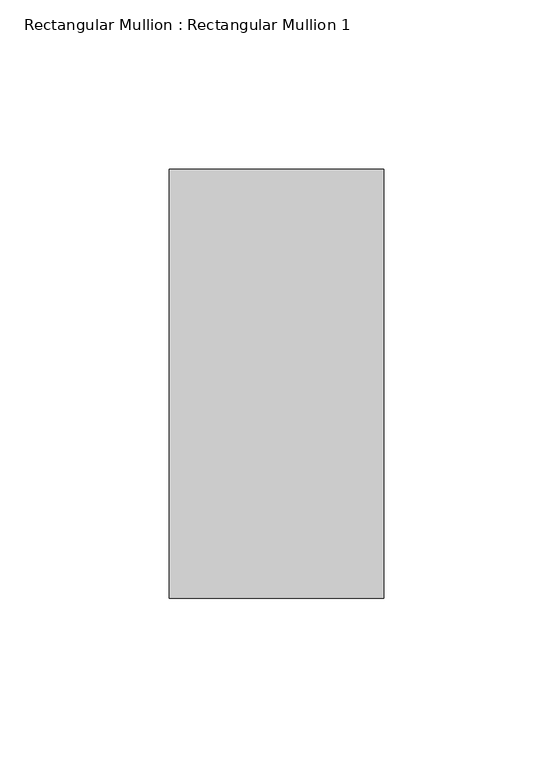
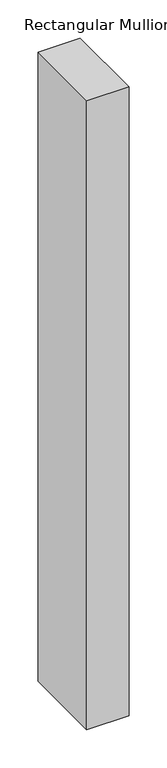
"""IFC4 building model written with IfcOpenShell, lengths in millimetres: member geometry, Rectangular Mullion : Rectangular Mullion 1."""

from ifc_helpers import new_model, si_unit, frame, origin, place, context, project, spatial, polyline, outline, extrude, source, transform, mapped, element, save


def rectangular_mullion_rectangular_mullion_1_c0a49549(model_context):
    return source(origin(), model_context, "Body", "SweptSolid", [
        extrude(outline(polyline([(31.75, 63.5), (31.75, -63.5), (-31.75, -63.5), (-31.75, 63.5), (31.75, 63.5)])), frame((0.0, 0.0, -1002.392857), z_axis=(0.0, 0.0, 1.0), x_axis=(1.0, 0.0, 0.0)), (0.0, 0.0, 1.0), 1002.392857),
    ])


if __name__ == "__main__":
    model = new_model("IFC4")
    model_context = context("Model", 3, world=origin())
    ifc_project = project(units=[si_unit("LENGTHUNIT", "METRE", prefix="MILLI")], contexts=[model_context])
    site = spatial("IfcSite", under=ifc_project)
    building = spatial("IfcBuilding", under=site)
    placement = place(None, origin())
    rectangular_mullion_rectangular_mullion_1_shape = rectangular_mullion_rectangular_mullion_1_c0a49549(model_context)
    element("IfcMember", 1, ObjectType="Rectangular Mullion : Rectangular Mullion 1", at=placement, inside=building, context=model_context, shape_type="MappedRepresentation", body=[
        mapped(rectangular_mullion_rectangular_mullion_1_shape, transform((0.0, 0.0, 0.0), x_axis=(1.0, 0.0, 0.0), y_axis=(0.0, 1.0, 0.0), z_axis=(0.0, 0.0, 1.0))),
    ])
    save(model, "model.ifc")
